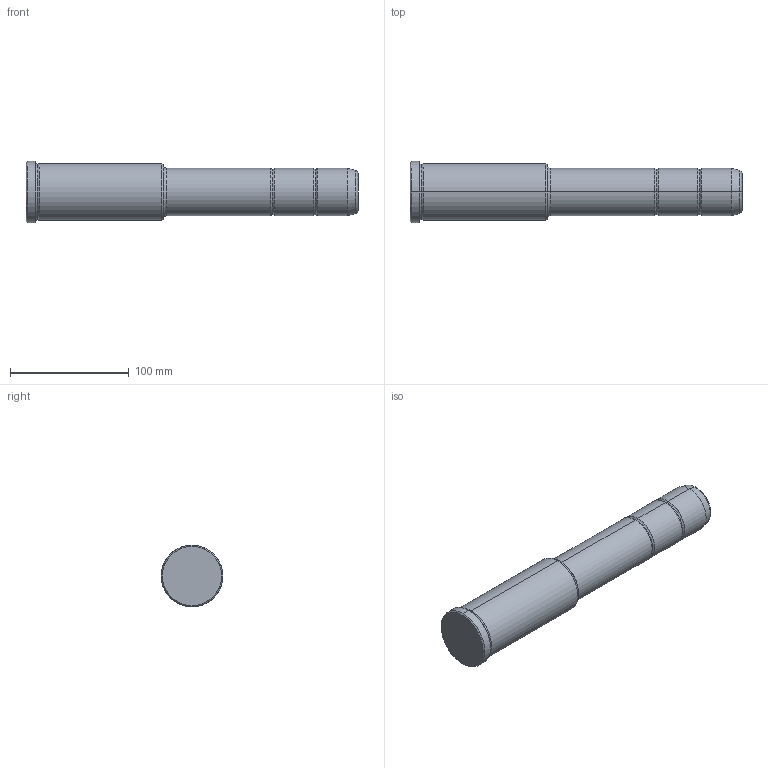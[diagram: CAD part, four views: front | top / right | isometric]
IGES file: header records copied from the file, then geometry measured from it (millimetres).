
Start section: START RECORD GO HERE.
Global section: file name: 351-40X116X280.igs; native system: DASSAULT SYSTEMES CATIA V5 R20 - www.3ds.com; preprocessor: CATIA Version 5 Release 20 ; author: Utente; organization: NB04-ASUS; date: 20211007.151246; units: millimetre
Bounding box: 280 x 52 x 52 mm (x, y, z)
Surface area: 41897.1 mm2 (no closed solid volume)
Topology: 0 solids, 0 shells, 36 faces, 204 edges, 204 vertices
Faces by surface type: revolution 32, plane 4
